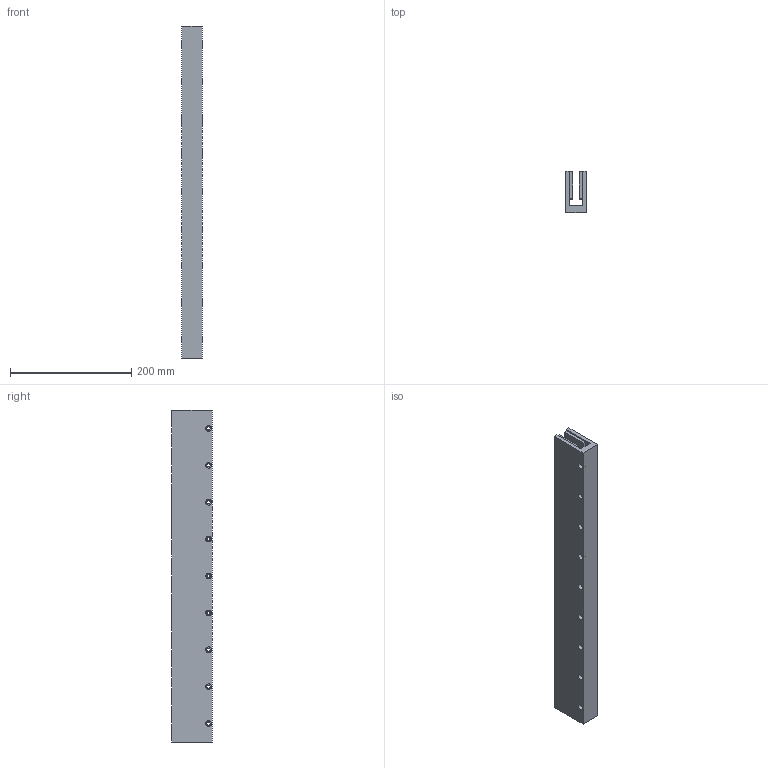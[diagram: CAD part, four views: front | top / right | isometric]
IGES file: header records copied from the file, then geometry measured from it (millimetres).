
Global section: file name: No Iges File Name specified; native system: Autodesk Inventor 2012; preprocessor: AutoDesk Inventor Iges Exporter R2012; author: je17857; date: 20120511.155639; units: inch
Bounding box: 34.29 x 67.31 x 548.39 mm (x, y, z)
Volume: 815524 mm3; surface area: 208951.9 mm2
Topology: 1 solids, 1 shells, 235 faces, 537 edges, 358 vertices
Faces by surface type: plane 208, revolution 27
